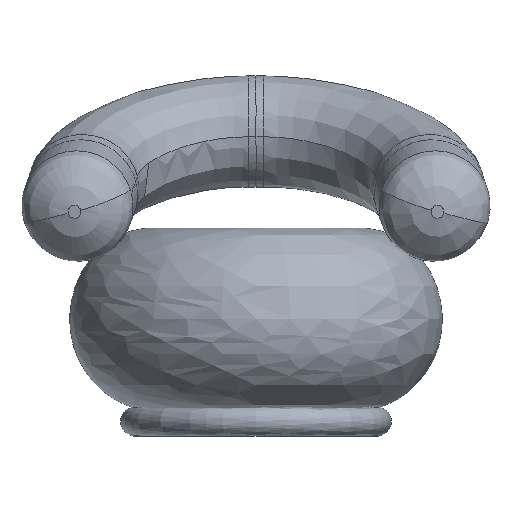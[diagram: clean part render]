
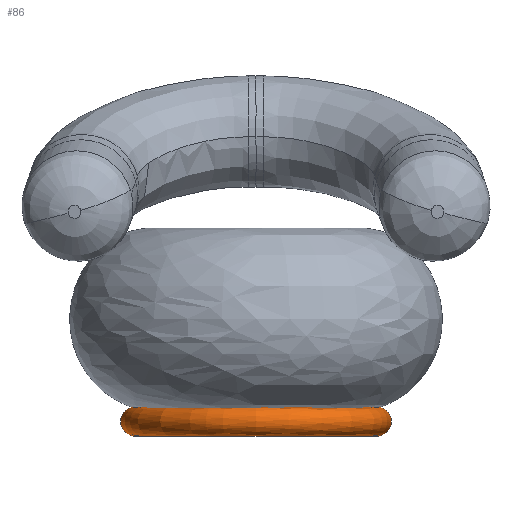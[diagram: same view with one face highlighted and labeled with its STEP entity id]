
A CAD part, front view. The second image highlights one B-rep face of the part: STEP entity #86.
In plain terms, the highlighted free-form (B-spline) face has degree [2, 2] with [11, 5] control points.
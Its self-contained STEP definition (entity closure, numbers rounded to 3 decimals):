
#86=ADVANCED_FACE('',(#112),#348,.T.);
#112=FACE_OUTER_BOUND('',#138,.T.);
#138=EDGE_LOOP('',(#164,#165));
#164=ORIENTED_EDGE('',*,*,#264,.T.);
#165=ORIENTED_EDGE('',*,*,#265,.F.);
#264=EDGE_CURVE('',#318,#319,#314,.T.);
#265=EDGE_CURVE('',#318,#319,#315,.T.);
#314=(
BOUNDED_CURVE()
B_SPLINE_CURVE(2,(#570,#571,#572,#573,#574,#575,#576,#577,#578,#579,#580),
 .UNSPECIFIED.,.F.,.F.)
B_SPLINE_CURVE_WITH_KNOTS((3,2,2,2,2,3),(1210.776,1436.704,
1483.828,1484.216,1531.34,1757.268),
 .UNSPECIFIED.)
CURVE()
GEOMETRIC_REPRESENTATION_ITEM()
RATIONAL_B_SPLINE_CURVE((1.,1.,1.,0.707,1.,1.,1.,0.707,
1.,1.,1.))
REPRESENTATION_ITEM('')
);
#315=(
BOUNDED_CURVE()
B_SPLINE_CURVE(2,(#581,#582,#583,#584,#585,#586,#587,#588,#589,#590,#591),
 .UNSPECIFIED.,.F.,.F.)
B_SPLINE_CURVE_WITH_KNOTS((3,2,2,2,2,3),(1210.776,1436.704,
1483.828,1484.216,1531.34,1757.268),
 .UNSPECIFIED.)
CURVE()
GEOMETRIC_REPRESENTATION_ITEM()
RATIONAL_B_SPLINE_CURVE((1.,1.,1.,0.707,1.,1.,1.,0.707,
1.,1.,1.))
REPRESENTATION_ITEM('')
);
#318=VERTEX_POINT('',#568);
#319=VERTEX_POINT('',#569);
#348=(
BOUNDED_SURFACE()
B_SPLINE_SURFACE(2,2,((#458,#459,#460,#461,#462),(#463,#464,#465,#466,#467),
(#468,#469,#470,#471,#472),(#473,#474,#475,#476,#477),(#478,#479,#480,#481,
#482),(#483,#484,#485,#486,#487),(#488,#489,#490,#491,#492),(#493,#494,
#495,#496,#497),(#498,#499,#500,#501,#502),(#503,#504,#505,#506,#507),(#508,
#509,#510,#511,#512)),.UNSPECIFIED.,.F.,.F.,.F.)
B_SPLINE_SURFACE_WITH_KNOTS((3,2,2,2,2,3),(3,2,3),(1210.776,1436.704,
1483.828,1484.216,1531.34,1757.268),(0.,
439.248,878.495),.UNSPECIFIED.)
GEOMETRIC_REPRESENTATION_ITEM()
RATIONAL_B_SPLINE_SURFACE(((1.,0.707,1.,0.707,1.),
(1.,0.707,1.,0.707,1.),(1.,0.707,1.,
0.707,1.),(0.707,0.5,0.707,
0.5,0.707),(1.,0.707,1.,0.707,
1.),(1.,0.707,1.,0.707,1.),(1.,0.707,
1.,0.707,1.),(0.707,0.5,0.707,0.5,0.707),
(1.,0.707,1.,0.707,1.),(1.,0.707,1.,
0.707,1.),(1.,0.707,1.,0.707,1.)))
REPRESENTATION_ITEM('')
SURFACE()
);
#458=CARTESIAN_POINT('',(0.,178.109,0.528));
#459=CARTESIAN_POINT('',(0.,178.109,0.528));
#460=CARTESIAN_POINT('',(0.,178.109,0.528));
#461=CARTESIAN_POINT('',(0.,178.109,0.528));
#462=CARTESIAN_POINT('',(0.,178.109,0.528));
#463=CARTESIAN_POINT('',(124.817,178.109,0.528));
#464=CARTESIAN_POINT('',(124.817,53.293,0.528));
#465=CARTESIAN_POINT('',(0.,53.293,0.528));
#466=CARTESIAN_POINT('',(-124.817,53.293,0.528));
#467=CARTESIAN_POINT('',(-124.817,178.109,0.528));
#468=CARTESIAN_POINT('',(249.634,178.109,0.528));
#469=CARTESIAN_POINT('',(249.634,-71.524,0.528));
#470=CARTESIAN_POINT('',(0.,-71.524,0.528));
#471=CARTESIAN_POINT('',(-249.634,-71.524,0.528));
#472=CARTESIAN_POINT('',(-249.634,178.109,0.528));
#473=CARTESIAN_POINT('',(279.634,178.109,0.528));
#474=CARTESIAN_POINT('',(279.634,-101.524,0.528));
#475=CARTESIAN_POINT('',(0.,-101.524,0.528));
#476=CARTESIAN_POINT('',(-279.634,-101.524,0.528));
#477=CARTESIAN_POINT('',(-279.634,178.109,0.528));
#478=CARTESIAN_POINT('',(279.634,178.109,30.528));
#479=CARTESIAN_POINT('',(279.634,-101.524,30.528));
#480=CARTESIAN_POINT('',(0.,-101.524,30.528));
#481=CARTESIAN_POINT('',(-279.634,-101.524,30.528));
#482=CARTESIAN_POINT('',(-279.634,178.109,30.528));
#483=CARTESIAN_POINT('',(279.634,178.109,30.76));
#484=CARTESIAN_POINT('',(279.634,-101.524,30.76));
#485=CARTESIAN_POINT('',(0.,-101.524,30.76));
#486=CARTESIAN_POINT('',(-279.634,-101.524,30.76));
#487=CARTESIAN_POINT('',(-279.634,178.109,30.76));
#488=CARTESIAN_POINT('',(279.634,178.109,30.993));
#489=CARTESIAN_POINT('',(279.634,-101.524,30.993));
#490=CARTESIAN_POINT('',(0.,-101.524,30.993));
#491=CARTESIAN_POINT('',(-279.634,-101.524,30.993));
#492=CARTESIAN_POINT('',(-279.634,178.109,30.993));
#493=CARTESIAN_POINT('',(279.634,178.109,60.993));
#494=CARTESIAN_POINT('',(279.634,-101.524,60.993));
#495=CARTESIAN_POINT('',(0.,-101.524,60.993));
#496=CARTESIAN_POINT('',(-279.634,-101.524,60.993));
#497=CARTESIAN_POINT('',(-279.634,178.109,60.993));
#498=CARTESIAN_POINT('',(249.634,178.109,60.993));
#499=CARTESIAN_POINT('',(249.634,-71.524,60.993));
#500=CARTESIAN_POINT('',(0.,-71.524,60.993));
#501=CARTESIAN_POINT('',(-249.634,-71.524,60.993));
#502=CARTESIAN_POINT('',(-249.634,178.109,60.993));
#503=CARTESIAN_POINT('',(124.817,178.109,60.993));
#504=CARTESIAN_POINT('',(124.817,53.293,60.993));
#505=CARTESIAN_POINT('',(0.,53.293,60.993));
#506=CARTESIAN_POINT('',(-124.817,53.293,60.993));
#507=CARTESIAN_POINT('',(-124.817,178.109,60.993));
#508=CARTESIAN_POINT('',(0.,178.109,60.993));
#509=CARTESIAN_POINT('',(0.,178.109,60.993));
#510=CARTESIAN_POINT('',(0.,178.109,60.993));
#511=CARTESIAN_POINT('',(0.,178.109,60.993));
#512=CARTESIAN_POINT('',(0.,178.109,60.993));
#568=CARTESIAN_POINT('',(0.,178.109,0.528));
#569=CARTESIAN_POINT('',(0.,178.109,60.993));
#570=CARTESIAN_POINT('',(0.,178.109,0.528));
#571=CARTESIAN_POINT('',(124.817,178.109,0.528));
#572=CARTESIAN_POINT('',(249.634,178.109,0.528));
#573=CARTESIAN_POINT('',(279.634,178.109,0.528));
#574=CARTESIAN_POINT('',(279.634,178.109,30.528));
#575=CARTESIAN_POINT('',(279.634,178.109,30.76));
#576=CARTESIAN_POINT('',(279.634,178.109,30.993));
#577=CARTESIAN_POINT('',(279.634,178.109,60.993));
#578=CARTESIAN_POINT('',(249.634,178.109,60.993));
#579=CARTESIAN_POINT('',(124.817,178.109,60.993));
#580=CARTESIAN_POINT('',(0.,178.109,60.993));
#581=CARTESIAN_POINT('',(0.,178.109,0.528));
#582=CARTESIAN_POINT('',(-124.817,178.109,0.528));
#583=CARTESIAN_POINT('',(-249.634,178.109,0.528));
#584=CARTESIAN_POINT('',(-279.634,178.109,0.528));
#585=CARTESIAN_POINT('',(-279.634,178.109,30.528));
#586=CARTESIAN_POINT('',(-279.634,178.109,30.76));
#587=CARTESIAN_POINT('',(-279.634,178.109,30.993));
#588=CARTESIAN_POINT('',(-279.634,178.109,60.993));
#589=CARTESIAN_POINT('',(-249.634,178.109,60.993));
#590=CARTESIAN_POINT('',(-124.817,178.109,60.993));
#591=CARTESIAN_POINT('',(0.,178.109,60.993));
